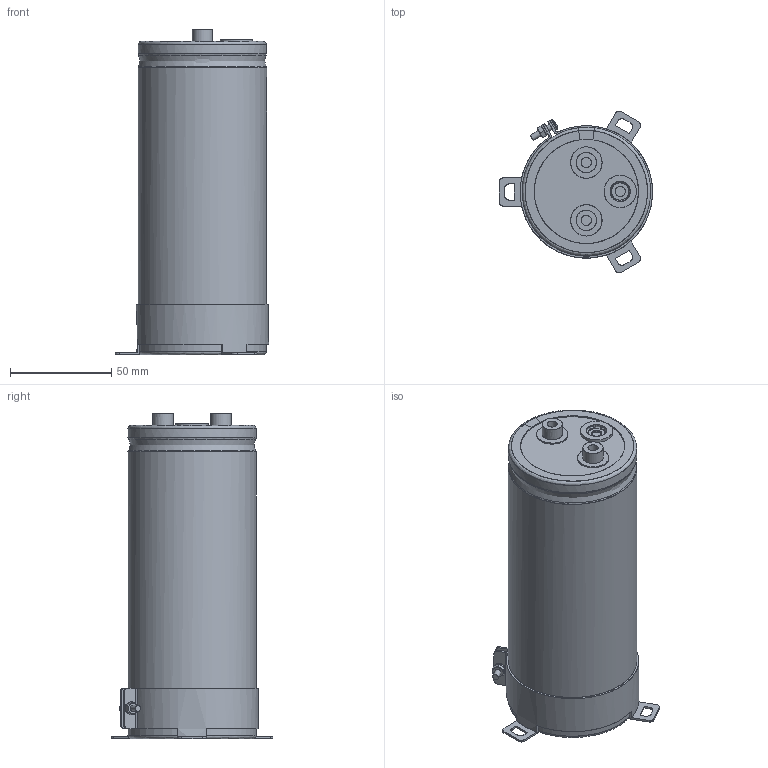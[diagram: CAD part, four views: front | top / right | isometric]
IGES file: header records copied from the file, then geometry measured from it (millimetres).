
Start section: JAMA-IS VERSION  1.0
Bounding box: 75.75 x 80.01 x 161 mm (x, y, z)
Surface area: 113683.8 mm2 (no closed solid volume)
Topology: 0 solids, 0 shells, 259 faces, 4436 edges, 4409 vertices
Faces by surface type: bspline 259
